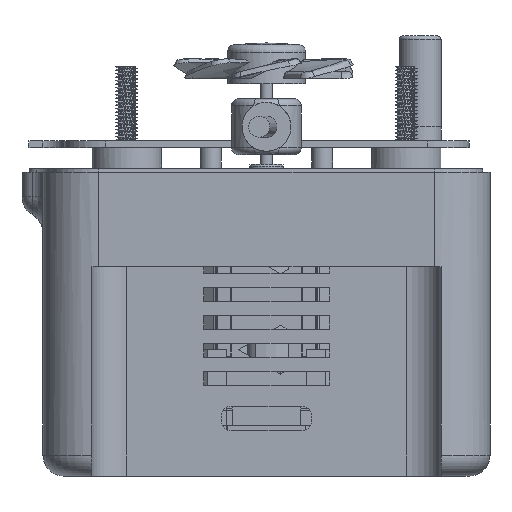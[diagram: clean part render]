
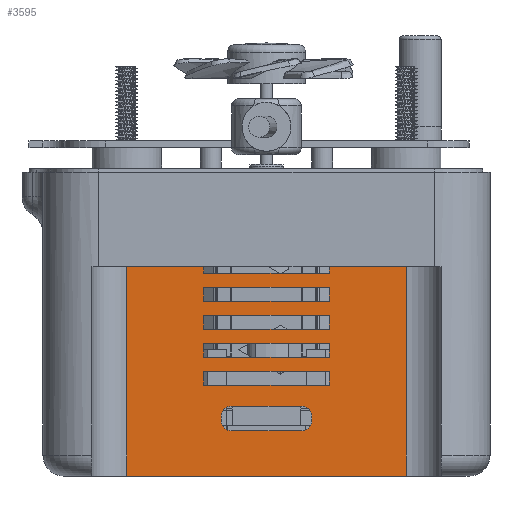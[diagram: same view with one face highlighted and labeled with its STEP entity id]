
A CAD part, left-side view. The second image highlights one B-rep face of the part: STEP entity #3595.
In plain terms, the highlighted planar face has unit normal (-1, 0, 0).
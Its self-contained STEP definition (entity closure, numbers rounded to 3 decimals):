
#3595=ADVANCED_FACE('',(#5026,#5027,#5028,#5029,#5030,#5031),#4497,.F.);
#4497=PLANE('',#23202);
#5026=FACE_BOUND('',#5929,.T.);
#5027=FACE_BOUND('',#5930,.T.);
#5028=FACE_BOUND('',#5931,.T.);
#5029=FACE_BOUND('',#5932,.T.);
#5030=FACE_BOUND('',#5933,.T.);
#5031=FACE_BOUND('',#5934,.T.);
#5929=EDGE_LOOP('',(#10502,#10503,#10504,#10505));
#5930=EDGE_LOOP('',(#10506,#10507,#10508,#10509));
#5931=EDGE_LOOP('',(#10510,#10511,#10512,#10513,#10514,#10515,#10516,#10517));
#5932=EDGE_LOOP('',(#10518,#10519,#10520,#10521));
#5933=EDGE_LOOP('',(#10522,#10523,#10524,#10525));
#5934=EDGE_LOOP('',(#10526,#10527,#10528,#10529,#10530,#10531,#10532,#10533));
#7088=CIRCLE('',#23198,1.5);
#7089=CIRCLE('',#23199,1.5);
#7090=CIRCLE('',#23200,1.5);
#7091=CIRCLE('',#23201,1.5);
#10502=ORIENTED_EDGE('',*,*,#17084,.F.);
#10503=ORIENTED_EDGE('',*,*,#17085,.F.);
#10504=ORIENTED_EDGE('',*,*,#17086,.F.);
#10505=ORIENTED_EDGE('',*,*,#17087,.F.);
#10506=ORIENTED_EDGE('',*,*,#17088,.F.);
#10507=ORIENTED_EDGE('',*,*,#17089,.F.);
#10508=ORIENTED_EDGE('',*,*,#17090,.F.);
#10509=ORIENTED_EDGE('',*,*,#17091,.F.);
#10510=ORIENTED_EDGE('',*,*,#17092,.F.);
#10511=ORIENTED_EDGE('',*,*,#17093,.T.);
#10512=ORIENTED_EDGE('',*,*,#17094,.F.);
#10513=ORIENTED_EDGE('',*,*,#17095,.T.);
#10514=ORIENTED_EDGE('',*,*,#17096,.F.);
#10515=ORIENTED_EDGE('',*,*,#17097,.T.);
#10516=ORIENTED_EDGE('',*,*,#17098,.F.);
#10517=ORIENTED_EDGE('',*,*,#17099,.T.);
#10518=ORIENTED_EDGE('',*,*,#17100,.F.);
#10519=ORIENTED_EDGE('',*,*,#17101,.F.);
#10520=ORIENTED_EDGE('',*,*,#17102,.F.);
#10521=ORIENTED_EDGE('',*,*,#17103,.F.);
#10522=ORIENTED_EDGE('',*,*,#17104,.F.);
#10523=ORIENTED_EDGE('',*,*,#17105,.F.);
#10524=ORIENTED_EDGE('',*,*,#17106,.F.);
#10525=ORIENTED_EDGE('',*,*,#17107,.F.);
#10526=ORIENTED_EDGE('',*,*,#17108,.F.);
#10527=ORIENTED_EDGE('',*,*,#17109,.T.);
#10528=ORIENTED_EDGE('',*,*,#17110,.T.);
#10529=ORIENTED_EDGE('',*,*,#17111,.F.);
#10530=ORIENTED_EDGE('',*,*,#17112,.T.);
#10531=ORIENTED_EDGE('',*,*,#17113,.T.);
#10532=ORIENTED_EDGE('',*,*,#17114,.F.);
#10533=ORIENTED_EDGE('',*,*,#17115,.F.);
#14562=VERTEX_POINT('',#70463);
#14563=VERTEX_POINT('',#70464);
#14564=VERTEX_POINT('',#70466);
#14565=VERTEX_POINT('',#70468);
#14566=VERTEX_POINT('',#70471);
#14567=VERTEX_POINT('',#70472);
#14568=VERTEX_POINT('',#70474);
#14569=VERTEX_POINT('',#70476);
#14570=VERTEX_POINT('',#70479);
#14571=VERTEX_POINT('',#70480);
#14572=VERTEX_POINT('',#70482);
#14573=VERTEX_POINT('',#70484);
#14574=VERTEX_POINT('',#70486);
#14575=VERTEX_POINT('',#70488);
#14576=VERTEX_POINT('',#70490);
#14577=VERTEX_POINT('',#70492);
#14578=VERTEX_POINT('',#70495);
#14579=VERTEX_POINT('',#70496);
#14580=VERTEX_POINT('',#70498);
#14581=VERTEX_POINT('',#70500);
#14582=VERTEX_POINT('',#70503);
#14583=VERTEX_POINT('',#70504);
#14584=VERTEX_POINT('',#70506);
#14585=VERTEX_POINT('',#70508);
#14586=VERTEX_POINT('',#70511);
#14587=VERTEX_POINT('',#70512);
#14588=VERTEX_POINT('',#70514);
#14589=VERTEX_POINT('',#70516);
#14590=VERTEX_POINT('',#70518);
#14591=VERTEX_POINT('',#70520);
#14592=VERTEX_POINT('',#70522);
#14593=VERTEX_POINT('',#70524);
#17084=EDGE_CURVE('',#14562,#14563,#19389,.T.);
#17085=EDGE_CURVE('',#14564,#14562,#19390,.T.);
#17086=EDGE_CURVE('',#14565,#14564,#19391,.T.);
#17087=EDGE_CURVE('',#14563,#14565,#19392,.T.);
#17088=EDGE_CURVE('',#14566,#14567,#19393,.T.);
#17089=EDGE_CURVE('',#14568,#14566,#19394,.T.);
#17090=EDGE_CURVE('',#14569,#14568,#19395,.T.);
#17091=EDGE_CURVE('',#14567,#14569,#19396,.T.);
#17092=EDGE_CURVE('',#14570,#14571,#19397,.T.);
#17093=EDGE_CURVE('',#14570,#14572,#7088,.T.);
#17094=EDGE_CURVE('',#14573,#14572,#19398,.T.);
#17095=EDGE_CURVE('',#14573,#14574,#7089,.T.);
#17096=EDGE_CURVE('',#14575,#14574,#19399,.T.);
#17097=EDGE_CURVE('',#14575,#14576,#7090,.T.);
#17098=EDGE_CURVE('',#14577,#14576,#19400,.T.);
#17099=EDGE_CURVE('',#14577,#14571,#7091,.T.);
#17100=EDGE_CURVE('',#14578,#14579,#19401,.T.);
#17101=EDGE_CURVE('',#14580,#14578,#19402,.T.);
#17102=EDGE_CURVE('',#14581,#14580,#19403,.T.);
#17103=EDGE_CURVE('',#14579,#14581,#19404,.T.);
#17104=EDGE_CURVE('',#14582,#14583,#19405,.T.);
#17105=EDGE_CURVE('',#14584,#14582,#19406,.T.);
#17106=EDGE_CURVE('',#14585,#14584,#19407,.T.);
#17107=EDGE_CURVE('',#14583,#14585,#19408,.T.);
#17108=EDGE_CURVE('',#14586,#14587,#19409,.T.);
#17109=EDGE_CURVE('',#14586,#14588,#19410,.T.);
#17110=EDGE_CURVE('',#14588,#14589,#19411,.T.);
#17111=EDGE_CURVE('',#14590,#14589,#19412,.T.);
#17112=EDGE_CURVE('',#14590,#14591,#19413,.T.);
#17113=EDGE_CURVE('',#14591,#14592,#19414,.T.);
#17114=EDGE_CURVE('',#14593,#14592,#19415,.T.);
#17115=EDGE_CURVE('',#14587,#14593,#19416,.T.);
#19389=LINE('',#70462,#21194);
#19390=LINE('',#70465,#21195);
#19391=LINE('',#70467,#21196);
#19392=LINE('',#70469,#21197);
#19393=LINE('',#70470,#21198);
#19394=LINE('',#70473,#21199);
#19395=LINE('',#70475,#21200);
#19396=LINE('',#70477,#21201);
#19397=LINE('',#70478,#21202);
#19398=LINE('',#70483,#21203);
#19399=LINE('',#70487,#21204);
#19400=LINE('',#70491,#21205);
#19401=LINE('',#70494,#21206);
#19402=LINE('',#70497,#21207);
#19403=LINE('',#70499,#21208);
#19404=LINE('',#70501,#21209);
#19405=LINE('',#70502,#21210);
#19406=LINE('',#70505,#21211);
#19407=LINE('',#70507,#21212);
#19408=LINE('',#70509,#21213);
#19409=LINE('',#70510,#21214);
#19410=LINE('',#70513,#21215);
#19411=LINE('',#70515,#21216);
#19412=LINE('',#70517,#21217);
#19413=LINE('',#70519,#21218);
#19414=LINE('',#70521,#21219);
#19415=LINE('',#70523,#21220);
#19416=LINE('',#70525,#21221);
#21194=VECTOR('',#27070,1.);
#21195=VECTOR('',#27071,1.);
#21196=VECTOR('',#27072,1.);
#21197=VECTOR('',#27073,1.);
#21198=VECTOR('',#27074,1.);
#21199=VECTOR('',#27075,1.);
#21200=VECTOR('',#27076,1.);
#21201=VECTOR('',#27077,1.);
#21202=VECTOR('',#27078,1.);
#21203=VECTOR('',#27081,1.);
#21204=VECTOR('',#27084,1.);
#21205=VECTOR('',#27087,1.);
#21206=VECTOR('',#27090,1.);
#21207=VECTOR('',#27091,1.);
#21208=VECTOR('',#27092,1.);
#21209=VECTOR('',#27093,1.);
#21210=VECTOR('',#27094,1.);
#21211=VECTOR('',#27095,1.);
#21212=VECTOR('',#27096,1.);
#21213=VECTOR('',#27097,1.);
#21214=VECTOR('',#27098,1.);
#21215=VECTOR('',#27099,1.);
#21216=VECTOR('',#27100,1.);
#21217=VECTOR('',#27101,1.);
#21218=VECTOR('',#27102,1.);
#21219=VECTOR('',#27103,1.);
#21220=VECTOR('',#27104,1.);
#21221=VECTOR('',#27105,1.);
#23198=AXIS2_PLACEMENT_3D('',#70481,#27079,#27080);
#23199=AXIS2_PLACEMENT_3D('',#70485,#27082,#27083);
#23200=AXIS2_PLACEMENT_3D('',#70489,#27085,#27086);
#23201=AXIS2_PLACEMENT_3D('',#70493,#27088,#27089);
#23202=AXIS2_PLACEMENT_3D('',#70526,#27106,#27107);
#27070=DIRECTION('',(0.,0.,1.));
#27071=DIRECTION('',(0.,-1.,0.));
#27072=DIRECTION('',(0.,0.,-1.));
#27073=DIRECTION('',(0.,1.,0.));
#27074=DIRECTION('',(0.,1.,0.));
#27075=DIRECTION('',(0.,0.,1.));
#27076=DIRECTION('',(0.,-1.,0.));
#27077=DIRECTION('',(0.,0.,-1.));
#27078=DIRECTION('',(0.,1.,0.));
#27079=DIRECTION('',(1.,0.,0.));
#27080=DIRECTION('',(0.,-1.,0.));
#27081=DIRECTION('',(0.,0.,1.));
#27082=DIRECTION('',(1.,0.,0.));
#27083=DIRECTION('',(0.,-1.,0.));
#27084=DIRECTION('',(0.,-1.,0.));
#27085=DIRECTION('',(1.,0.,0.));
#27086=DIRECTION('',(0.,-1.,0.));
#27087=DIRECTION('',(0.,0.,-1.));
#27088=DIRECTION('',(1.,0.,0.));
#27089=DIRECTION('',(0.,-1.,0.));
#27090=DIRECTION('',(0.,1.,0.));
#27091=DIRECTION('',(0.,0.,1.));
#27092=DIRECTION('',(0.,-1.,0.));
#27093=DIRECTION('',(0.,0.,-1.));
#27094=DIRECTION('',(0.,1.,0.));
#27095=DIRECTION('',(0.,0.,1.));
#27096=DIRECTION('',(0.,-1.,0.));
#27097=DIRECTION('',(0.,0.,-1.));
#27098=DIRECTION('',(0.,0.,-1.));
#27099=DIRECTION('',(0.,1.,0.));
#27100=DIRECTION('',(0.,0.,-1.));
#27101=DIRECTION('',(0.,1.,0.));
#27102=DIRECTION('',(0.,0.,1.));
#27103=DIRECTION('',(0.,1.,0.));
#27104=DIRECTION('',(0.,0.,1.));
#27105=DIRECTION('',(0.,-1.,0.));
#27106=DIRECTION('',(1.,0.,0.));
#27107=DIRECTION('',(0.,-1.,0.));
#70462=CARTESIAN_POINT('',(-15.,-9.,-6.));
#70463=CARTESIAN_POINT('',(-15.,-9.,8.));
#70464=CARTESIAN_POINT('',(-15.,-9.,10.));
#70465=CARTESIAN_POINT('',(-15.,25.,8.));
#70466=CARTESIAN_POINT('',(-15.,9.,8.));
#70467=CARTESIAN_POINT('',(-15.,9.,-6.));
#70468=CARTESIAN_POINT('',(-15.,9.,10.));
#70469=CARTESIAN_POINT('',(-15.,25.,10.));
#70470=CARTESIAN_POINT('',(-15.,25.,2.));
#70471=CARTESIAN_POINT('',(-15.,-9.,2.));
#70472=CARTESIAN_POINT('',(-15.,9.,2.));
#70473=CARTESIAN_POINT('',(-15.,-9.,-6.));
#70474=CARTESIAN_POINT('',(-15.,-9.,0.));
#70475=CARTESIAN_POINT('',(-15.,25.,0.));
#70476=CARTESIAN_POINT('',(-15.,9.,0.));
#70477=CARTESIAN_POINT('',(-15.,9.,-6.));
#70478=CARTESIAN_POINT('',(-15.,25.,-7.));
#70479=CARTESIAN_POINT('',(-15.,-5.,-7.));
#70480=CARTESIAN_POINT('',(-15.,5.,-7.));
#70481=CARTESIAN_POINT('',(-15.,-5.,-8.5));
#70482=CARTESIAN_POINT('',(-15.,-6.5,-8.5));
#70483=CARTESIAN_POINT('',(-15.,-6.5,-6.));
#70484=CARTESIAN_POINT('',(-15.,-6.5,-9.));
#70485=CARTESIAN_POINT('',(-15.,-5.,-9.));
#70486=CARTESIAN_POINT('',(-15.,-5.,-10.5));
#70487=CARTESIAN_POINT('',(-15.,25.,-10.5));
#70488=CARTESIAN_POINT('',(-15.,5.,-10.5));
#70489=CARTESIAN_POINT('',(-15.,5.,-9.));
#70490=CARTESIAN_POINT('',(-15.,6.5,-9.));
#70491=CARTESIAN_POINT('',(-15.,6.5,-6.));
#70492=CARTESIAN_POINT('',(-15.,6.5,-8.5));
#70493=CARTESIAN_POINT('',(-15.,5.,-8.5));
#70494=CARTESIAN_POINT('',(-15.,25.,-2.));
#70495=CARTESIAN_POINT('',(-15.,-9.,-2.));
#70496=CARTESIAN_POINT('',(-15.,9.,-2.));
#70497=CARTESIAN_POINT('',(-15.,-9.,-6.));
#70498=CARTESIAN_POINT('',(-15.,-9.,-4.));
#70499=CARTESIAN_POINT('',(-15.,25.,-4.));
#70500=CARTESIAN_POINT('',(-15.,9.,-4.));
#70501=CARTESIAN_POINT('',(-15.,9.,-6.));
#70502=CARTESIAN_POINT('',(-15.,25.,6.));
#70503=CARTESIAN_POINT('',(-15.,-9.,6.));
#70504=CARTESIAN_POINT('',(-15.,9.,6.));
#70505=CARTESIAN_POINT('',(-15.,-9.,-6.));
#70506=CARTESIAN_POINT('',(-15.,-9.,4.));
#70507=CARTESIAN_POINT('',(-15.,25.,4.));
#70508=CARTESIAN_POINT('',(-15.,9.,4.));
#70509=CARTESIAN_POINT('',(-15.,9.,-6.));
#70510=CARTESIAN_POINT('',(-15.,9.,-6.));
#70511=CARTESIAN_POINT('',(-15.,9.,13.));
#70512=CARTESIAN_POINT('',(-15.,9.,12.));
#70513=CARTESIAN_POINT('',(-15.,32.,13.));
#70514=CARTESIAN_POINT('',(-15.,20.,13.));
#70515=CARTESIAN_POINT('',(-15.,20.,13.));
#70516=CARTESIAN_POINT('',(-15.,20.,-17.));
#70517=CARTESIAN_POINT('',(-15.,32.,-17.));
#70518=CARTESIAN_POINT('',(-15.,-20.,-17.));
#70519=CARTESIAN_POINT('',(-15.,-20.,-17.));
#70520=CARTESIAN_POINT('',(-15.,-20.,13.));
#70521=CARTESIAN_POINT('',(-15.,32.,13.));
#70522=CARTESIAN_POINT('',(-15.,-9.,13.));
#70523=CARTESIAN_POINT('',(-15.,-9.,-6.));
#70524=CARTESIAN_POINT('',(-15.,-9.,12.));
#70525=CARTESIAN_POINT('',(-15.,25.,12.));
#70526=CARTESIAN_POINT('',(-15.,25.,-6.));
